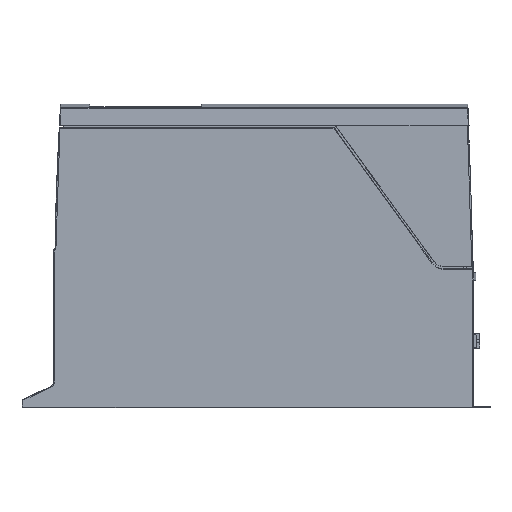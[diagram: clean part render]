
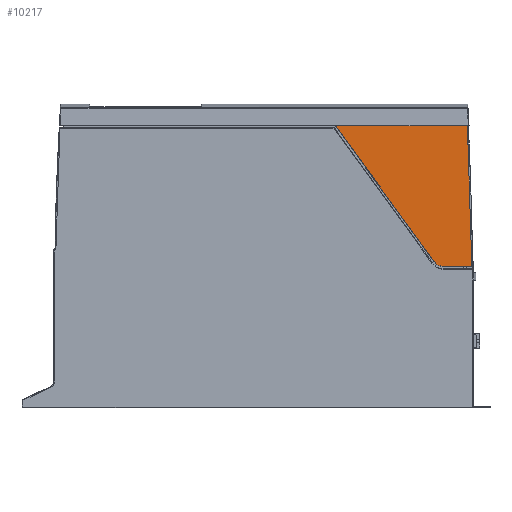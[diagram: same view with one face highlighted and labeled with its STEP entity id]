
A CAD part, left-side view. The second image highlights one B-rep face of the part: STEP entity #10217.
In plain terms, the highlighted planar face has unit normal (-1, 0, 0).
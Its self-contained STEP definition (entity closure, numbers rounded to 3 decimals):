
#2747 = CARTESIAN_POINT ( 'NONE',  ( -51., -315.978, -44.341 ) ) ;
#4087 = VECTOR ( 'NONE', #197734, 1000. ) ;
#8126 = CARTESIAN_POINT ( 'NONE',  ( -51., -294.5, -81.3 ) ) ;
#10217 = ADVANCED_FACE ( 'NONE', ( #212191 ), #69452, .T. ) ;
#10954 = CARTESIAN_POINT ( 'NONE',  ( -51., -289.365, -79.882 ) ) ;
#15154 = CARTESIAN_POINT ( 'NONE',  ( -51., -316.208, -81.3 ) ) ;
#27612 = CARTESIAN_POINT ( 'NONE',  ( -51., -287.55, -78.452 ) ) ;
#44265 = CARTESIAN_POINT ( 'NONE',  ( -51., -286.572, -77.26 ) ) ;
#53468 = DIRECTION ( 'NONE',  ( 0., 0., 1. ) ) ;
#59595 = CARTESIAN_POINT ( 'NONE',  ( -51., -293.73, -81.3 ) ) ;
#65682 = CARTESIAN_POINT ( 'NONE',  ( -51., -312.723, 29.5 ) ) ;
#69452 = PLANE ( 'NONE',  #174563 ) ;
#75345 = ORIENTED_EDGE ( 'NONE', *, *, #211862, .T. ) ;
#76857 = DIRECTION ( 'NONE',  ( 0., -1., 0. ) ) ;
#84791 = LINE ( 'NONE', #175819, #167486 ) ;
#85277 = CARTESIAN_POINT ( 'NONE',  ( -51., -314.816, -7.4 ) ) ;
#91592 = LINE ( 'NONE', #211768, #140754 ) ;
#93479 = CARTESIAN_POINT ( 'NONE',  ( -51., -292.961, -81.209 ) ) ;
#93513 = VERTEX_POINT ( 'NONE', #8126 ) ;
#110091 = CARTESIAN_POINT ( 'NONE',  ( -51., -290.737, -80.581 ) ) ;
#112595 = ORIENTED_EDGE ( 'NONE', *, *, #142552, .F. ) ;
#112883 = DIRECTION ( 'NONE',  ( 0., -0.588, -0.809 ) ) ;
#114000 = CARTESIAN_POINT ( 'NONE',  ( -51., 7.75, 29.5 ) ) ;
#116862 = ORIENTED_EDGE ( 'NONE', *, *, #160230, .T. ) ;
#118461 = CARTESIAN_POINT ( 'NONE',  ( -51., -316.208, -81.3 ) ) ;
#121645 = ORIENTED_EDGE ( 'NONE', *, *, #156578, .F. ) ;
#126699 = CARTESIAN_POINT ( 'NONE',  ( -51., -288.721, -79.452 ) ) ;
#128416 = EDGE_LOOP ( 'NONE', ( #112595, #145058, #75345, #121645, #116862 ) ) ;
#133099 = VERTEX_POINT ( 'NONE', #65682 ) ;
#133860 = B_SPLINE_CURVE_WITH_KNOTS ( 'NONE', 3,
 ( #175132, #59595, #93479, #208974, #110091, #10954, #126699, #27612, #143335, #44265 ),
 .UNSPECIFIED., .F., .F.,
 ( 4, 2, 2, 2, 4 ),
 ( 0., 0.25, 0.5, 0.75, 1. ),
 .UNSPECIFIED. ) ;
#135992 = CARTESIAN_POINT ( 'NONE',  ( -51., -286.572, -77.26 ) ) ;
#139147 = EDGE_CURVE ( 'NONE', #193655, #133099, #179994, .T. ) ;
#140754 = VECTOR ( 'NONE', #112883, 1000. ) ;
#142552 = EDGE_CURVE ( 'NONE', #133099, #175138, #160528, .T. ) ;
#143335 = CARTESIAN_POINT ( 'NONE',  ( -51., -287.024, -77.883 ) ) ;
#145058 = ORIENTED_EDGE ( 'NONE', *, *, #139147, .F. ) ;
#152543 = DIRECTION ( 'NONE',  ( -1., 0., 0. ) ) ;
#156578 = EDGE_CURVE ( 'NONE', #93513, #195641, #133860, .T. ) ;
#160230 = EDGE_CURVE ( 'NONE', #93513, #175138, #84791, .T. ) ;
#160528 =( BOUNDED_CURVE ( )  B_SPLINE_CURVE ( 3, ( #200801, #85277, #2747, #118461 ),
 .UNSPECIFIED., .F., .F. ) 
 B_SPLINE_CURVE_WITH_KNOTS ( ( 4, 4 ),
 ( 0., 1. ),
 .UNSPECIFIED. ) 
 CURVE ( )  GEOMETRIC_REPRESENTATION_ITEM ( )  RATIONAL_B_SPLINE_CURVE ( ( 1., 1., 1., 1. ) ) 
 REPRESENTATION_ITEM ( '' )  );
#167486 = VECTOR ( 'NONE', #76857, 1000. ) ;
#174563 = AXIS2_PLACEMENT_3D ( 'NONE', #201583, #152543, #53468 ) ;
#175132 = CARTESIAN_POINT ( 'NONE',  ( -51., -294.5, -81.3 ) ) ;
#175138 = VERTEX_POINT ( 'NONE', #15154 ) ;
#175819 = CARTESIAN_POINT ( 'NONE',  ( -51., -294.5, -81.3 ) ) ;
#178461 = CARTESIAN_POINT ( 'NONE',  ( -51., -209.006, 29.5 ) ) ;
#179994 = LINE ( 'NONE', #114000, #4087 ) ;
#193655 = VERTEX_POINT ( 'NONE', #178461 ) ;
#195641 = VERTEX_POINT ( 'NONE', #135992 ) ;
#197734 = DIRECTION ( 'NONE',  ( 0., -1., 0. ) ) ;
#200801 = CARTESIAN_POINT ( 'NONE',  ( -51., -312.723, 29.5 ) ) ;
#201583 = CARTESIAN_POINT ( 'NONE',  ( -51., 12.5, -191. ) ) ;
#208974 = CARTESIAN_POINT ( 'NONE',  ( -51., -291.464, -80.85 ) ) ;
#211768 = CARTESIAN_POINT ( 'NONE',  ( -51., -208.92, 29.618 ) ) ;
#211862 = EDGE_CURVE ( 'NONE', #193655, #195641, #91592, .T. ) ;
#212191 = FACE_OUTER_BOUND ( 'NONE', #128416, .T. ) ;
